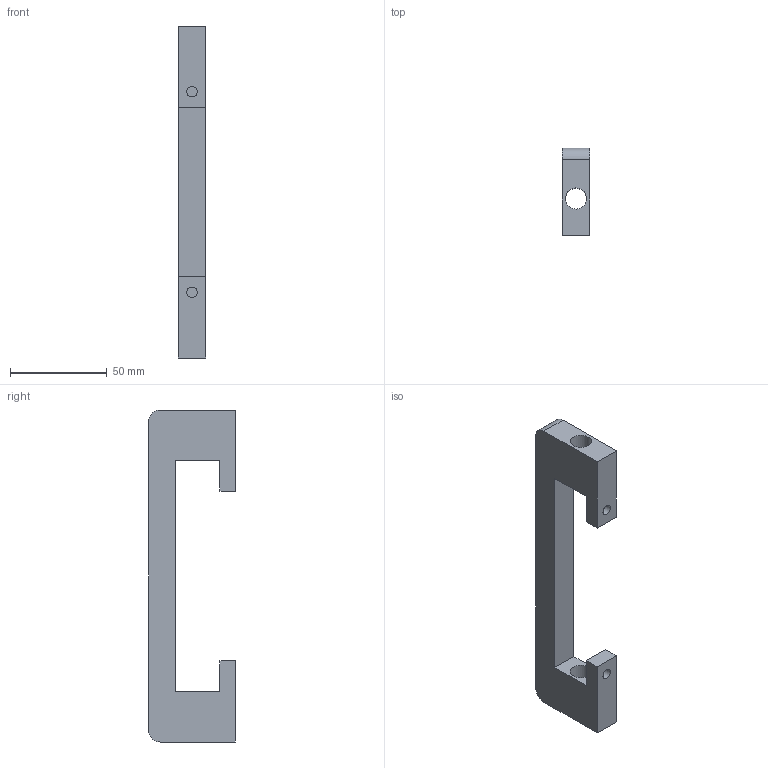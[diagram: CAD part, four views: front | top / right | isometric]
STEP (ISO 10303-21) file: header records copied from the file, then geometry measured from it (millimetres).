
FILE_DESCRIPTION(('Open CASCADE Model'),'2;1');
FILE_NAME('Open CASCADE Shape Model','2026-10-27T02:33:58',('Author'),( 'Open CASCADE'),'Open CASCADE STEP processor 7.9','Open CASCADE 7.9' ,'Unknown');
FILE_SCHEMA(('AUTOMOTIVE_DESIGN { 1 0 10303 214 1 1 1 1 }'));
Length unit declared in the file: millimetre
Products named in the file (1): Open CASCADE STEP translator 7.9 5
Bounding box: 14 x 45 x 172 mm (x, y, z)
Volume: 53948.8 mm3; surface area: 17981.5 mm2
Topology: 1 solids, 1 shells, 24 faces, 60 edges, 40 vertices
Faces by surface type: plane 16, cylinder 8
Full cylindrical faces by diameter (mm): 5.5 x2, 10.5 x2, 11 x2
Entity records: 1552 total; most frequent: CARTESIAN_POINT 327, DIRECTION 224, LINE 138, VECTOR 138, ORIENTED_EDGE 120, PCURVE 120, DEFINITIONAL_REPRESENTATION 120, EDGE_CURVE 60
